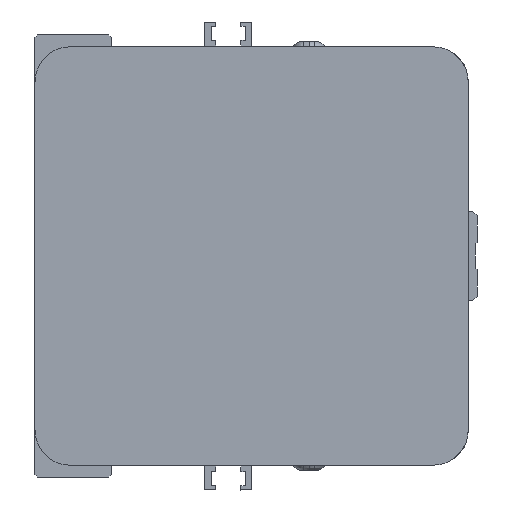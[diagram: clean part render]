
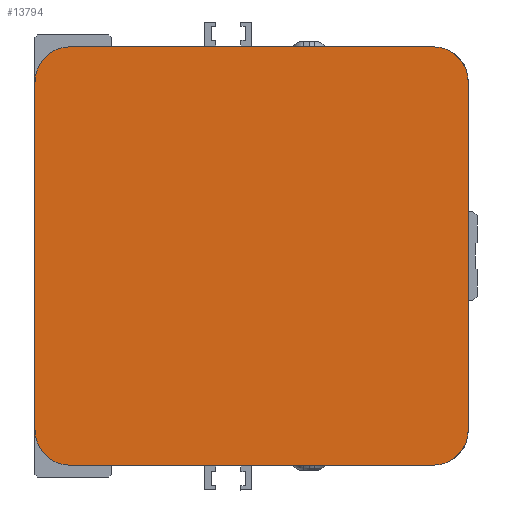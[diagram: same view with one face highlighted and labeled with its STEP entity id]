
A CAD part, left-side view. The second image highlights one B-rep face of the part: STEP entity #13794.
In plain terms, the highlighted planar face has unit normal (-1, 0, 0) as drawn and (0, 0, -1) by its records, which use the part's own axes.
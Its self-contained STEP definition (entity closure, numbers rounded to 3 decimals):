
#1004=CIRCLE('',#14787,6.);
#1005=CIRCLE('',#14792,6.);
#1013=CIRCLE('',#14803,6.);
#1014=CIRCLE('',#14805,6.);
#1696=FACE_OUTER_BOUND('',#2539,.T.);
#2539=EDGE_LOOP('',(#9646,#9647,#9648,#9649,#9650,#9651,#9652,#9653));
#3637=LINE('',#19420,#4909);
#3642=LINE('',#19431,#4914);
#3649=LINE('',#19446,#4921);
#3653=LINE('',#19531,#4925);
#4909=VECTOR('',#16077,61.5);
#4914=VECTOR('',#16088,59.);
#4921=VECTOR('',#16105,61.5);
#4925=VECTOR('',#16131,59.);
#6180=VERTEX_POINT('',#19416);
#6182=VERTEX_POINT('',#19419);
#6183=VERTEX_POINT('',#19424);
#6185=VERTEX_POINT('',#19430);
#6187=VERTEX_POINT('',#19441);
#6188=VERTEX_POINT('',#19445);
#6197=VERTEX_POINT('',#19526);
#6198=VERTEX_POINT('',#19530);
#7577=EDGE_CURVE('',#6182,#6180,#3637,.T.);
#7580=EDGE_CURVE('',#6182,#6183,#1004,.T.);
#7583=EDGE_CURVE('',#6185,#6183,#3642,.T.);
#7589=EDGE_CURVE('',#6185,#6187,#1005,.T.);
#7591=EDGE_CURVE('',#6188,#6187,#3649,.T.);
#7604=EDGE_CURVE('',#6197,#6180,#1013,.T.);
#7605=EDGE_CURVE('',#6197,#6198,#3653,.T.);
#7606=EDGE_CURVE('',#6188,#6198,#1014,.T.);
#9646=ORIENTED_EDGE('',*,*,#7589,.F.);
#9647=ORIENTED_EDGE('',*,*,#7583,.T.);
#9648=ORIENTED_EDGE('',*,*,#7580,.F.);
#9649=ORIENTED_EDGE('',*,*,#7577,.T.);
#9650=ORIENTED_EDGE('',*,*,#7604,.F.);
#9651=ORIENTED_EDGE('',*,*,#7605,.T.);
#9652=ORIENTED_EDGE('',*,*,#7606,.F.);
#9653=ORIENTED_EDGE('',*,*,#7591,.T.);
#13267=PLANE('',#14804);
#13794=ADVANCED_FACE('',(#1696),#13267,.F.);
#14787=AXIS2_PLACEMENT_3D('',#19425,#16082,#16083);
#14792=AXIS2_PLACEMENT_3D('',#19442,#16100,#16101);
#14803=AXIS2_PLACEMENT_3D('',#19528,#16127,#16128);
#14804=AXIS2_PLACEMENT_3D('',#19529,#16129,#16130);
#14805=AXIS2_PLACEMENT_3D('',#19532,#16132,#16133);
#16077=DIRECTION('',(0.,-1.,0.));
#16082=DIRECTION('center_axis',(0.,0.,
1.));
#16083=DIRECTION('ref_axis',(0.707,0.707,0.));
#16088=DIRECTION('',(1.,0.,0.));
#16100=DIRECTION('center_axis',(0.,0.,
1.));
#16101=DIRECTION('ref_axis',(-0.707,0.707,0.));
#16105=DIRECTION('',(0.,1.,0.));
#16127=DIRECTION('center_axis',(0.,0.,
1.));
#16128=DIRECTION('ref_axis',(0.707,-0.707,0.));
#16129=DIRECTION('center_axis',(0.,0.,
1.));
#16130=DIRECTION('ref_axis',(1.,0.,0.));
#16131=DIRECTION('',(-1.,0.,0.));
#16132=DIRECTION('center_axis',(0.,0.,
1.));
#16133=DIRECTION('ref_axis',(-0.707,-0.707,0.));
#19416=CARTESIAN_POINT('',(75.2,7.5,-607.));
#19419=CARTESIAN_POINT('',(75.2,69.,-607.));
#19420=CARTESIAN_POINT('',(75.2,69.,-607.));
#19424=CARTESIAN_POINT('',(69.2,75.,-607.));
#19425=CARTESIAN_POINT('Origin',(69.2,69.,-607.));
#19430=CARTESIAN_POINT('',(10.2,75.,-607.));
#19431=CARTESIAN_POINT('',(10.2,75.,-607.));
#19441=CARTESIAN_POINT('',(4.2,69.,-607.));
#19442=CARTESIAN_POINT('Origin',(10.2,69.,-607.));
#19445=CARTESIAN_POINT('',(4.2,7.5,-607.));
#19446=CARTESIAN_POINT('',(4.2,7.5,-607.));
#19526=CARTESIAN_POINT('',(69.2,1.5,-607.));
#19528=CARTESIAN_POINT('Origin',(69.2,7.5,-607.));
#19529=CARTESIAN_POINT('Origin',(39.7,38.25,-607.));
#19530=CARTESIAN_POINT('',(10.2,1.5,-607.));
#19531=CARTESIAN_POINT('',(69.2,1.5,-607.));
#19532=CARTESIAN_POINT('Origin',(10.2,7.5,-607.));
